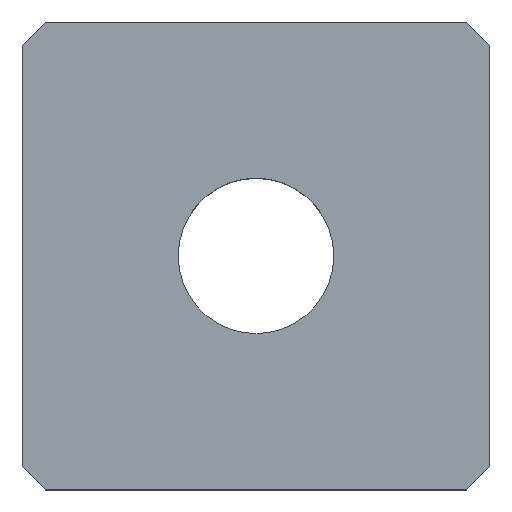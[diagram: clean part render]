
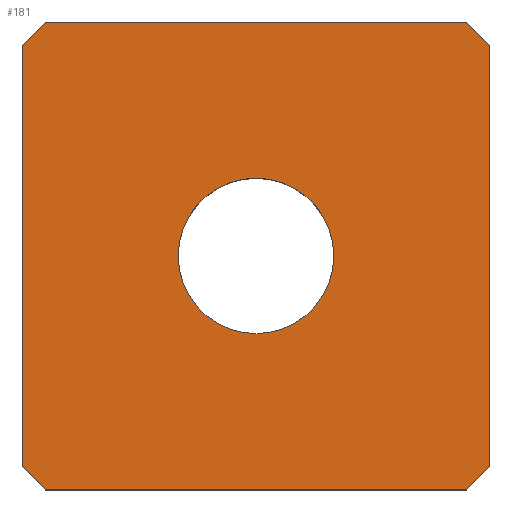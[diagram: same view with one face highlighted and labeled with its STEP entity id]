
A CAD part, top view. The second image highlights one B-rep face of the part: STEP entity #181.
In plain terms, the highlighted planar face has unit normal (0, 0, 1).
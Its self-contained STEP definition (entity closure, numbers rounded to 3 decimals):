
#73=CARTESIAN_POINT('',(19.,20.0,5.0));
#74=VERTEX_POINT('',#73);
#75=CARTESIAN_POINT('',(20.,19.0,5.0));
#76=VERTEX_POINT('',#75);
#77=CARTESIAN_POINT('',(19.,20.,5.0));
#78=DIRECTION('',(0.707,-0.707,0.0));
#79=VECTOR('',#78,1.414);
#80=LINE('',#77,#79);
#81=EDGE_CURVE('',#74,#76,#80,.T.);
#108=CARTESIAN_POINT('',(10.,10.,5.0));
#109=DIRECTION('',(0.0,0.0,1.0));
#110=DIRECTION('',(1.0,0.0,0.0));
#111=AXIS2_PLACEMENT_3D('',#108,#109,#110);
#112=PLANE('',#111);
#113=ORIENTED_EDGE('',*,*,#81,.F.);
#114=CARTESIAN_POINT('',(1.,20.,5.0));
#115=VERTEX_POINT('',#114);
#116=CARTESIAN_POINT('',(1.,20.,5.0));
#117=DIRECTION('',(1.0,0.0,0.0));
#118=VECTOR('',#117,18.0);
#119=LINE('',#116,#118);
#120=EDGE_CURVE('',#115,#74,#119,.T.);
#121=ORIENTED_EDGE('',*,*,#120,.F.);
#122=CARTESIAN_POINT('',(0.,19.,5.0));
#123=VERTEX_POINT('',#122);
#124=CARTESIAN_POINT('',(0.,19.,5.0));
#125=DIRECTION('',(0.707,0.707,0.0));
#126=VECTOR('',#125,1.414);
#127=LINE('',#124,#126);
#128=EDGE_CURVE('',#123,#115,#127,.T.);
#129=ORIENTED_EDGE('',*,*,#128,.F.);
#130=CARTESIAN_POINT('',(0.,1.,5.0));
#131=VERTEX_POINT('',#130);
#132=CARTESIAN_POINT('',(0.,1.0,5.0));
#133=DIRECTION('',(0.0,1.0,0.0));
#134=VECTOR('',#133,18.);
#135=LINE('',#132,#134);
#136=EDGE_CURVE('',#131,#123,#135,.T.);
#137=ORIENTED_EDGE('',*,*,#136,.F.);
#138=CARTESIAN_POINT('',(1.,0.0,5.0));
#139=VERTEX_POINT('',#138);
#140=CARTESIAN_POINT('',(1.,0.,5.0));
#141=DIRECTION('',(-0.707,0.707,0.0));
#142=VECTOR('',#141,1.414);
#143=LINE('',#140,#142);
#144=EDGE_CURVE('',#139,#131,#143,.T.);
#145=ORIENTED_EDGE('',*,*,#144,.F.);
#146=CARTESIAN_POINT('',(19.0,0.0,5.0));
#147=VERTEX_POINT('',#146);
#148=CARTESIAN_POINT('',(19.0,0.0,5.0));
#149=DIRECTION('',(-1.0,0.0,0.0));
#150=VECTOR('',#149,18.0);
#151=LINE('',#148,#150);
#152=EDGE_CURVE('',#147,#139,#151,.T.);
#153=ORIENTED_EDGE('',*,*,#152,.F.);
#154=CARTESIAN_POINT('',(20.0,1.,5.0));
#155=VERTEX_POINT('',#154);
#156=CARTESIAN_POINT('',(20.0,1.,5.0));
#157=DIRECTION('',(-0.707,-0.707,0.0));
#158=VECTOR('',#157,1.414);
#159=LINE('',#156,#158);
#160=EDGE_CURVE('',#155,#147,#159,.T.);
#161=ORIENTED_EDGE('',*,*,#160,.F.);
#162=CARTESIAN_POINT('',(20.,19.0,5.0));
#163=DIRECTION('',(0.0,-1.0,0.0));
#164=VECTOR('',#163,18.0);
#165=LINE('',#162,#164);
#166=EDGE_CURVE('',#76,#155,#165,.T.);
#167=ORIENTED_EDGE('',*,*,#166,.F.);
#168=EDGE_LOOP('',(#113,#121,#129,#137,#145,#153,#161,#167));
#169=FACE_OUTER_BOUND('',#168,.T.);
#170=CARTESIAN_POINT('',(13.323,10.,5.0));
#171=VERTEX_POINT('',#170);
#172=CARTESIAN_POINT('',(10.,10.,5.0));
#173=DIRECTION('',(0.0,0.0,-1.0));
#174=DIRECTION('',(1.0,0.0,0.0));
#175=AXIS2_PLACEMENT_3D('',#172,#173,#174);
#176=CIRCLE('',#175,3.324);
#177=EDGE_CURVE('',#171,#171,#176,.T.);
#178=ORIENTED_EDGE('',*,*,#177,.T.);
#179=EDGE_LOOP('',(#178));
#180=FACE_BOUND('',#179,.T.);
#181=ADVANCED_FACE('',(#169,#180),#112,.T.);
